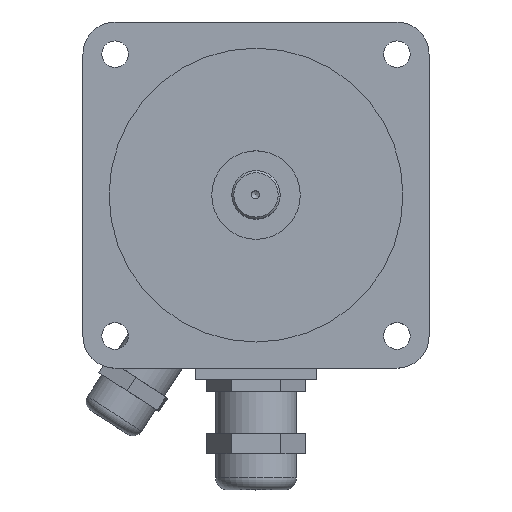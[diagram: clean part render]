
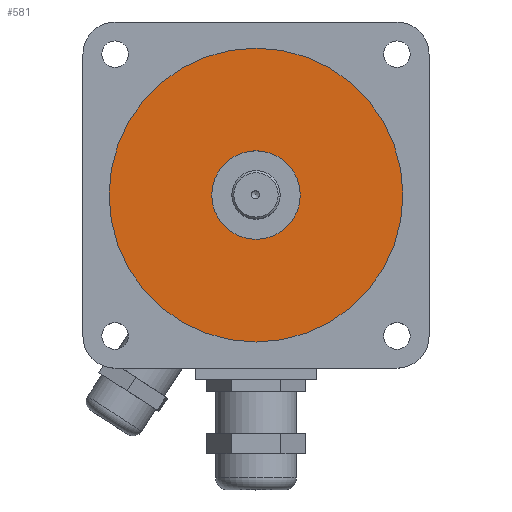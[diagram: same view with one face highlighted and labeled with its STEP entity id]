
A CAD part, top view. The second image highlights one B-rep face of the part: STEP entity #581.
In plain terms, the highlighted planar face has unit normal (0, 0, 1).
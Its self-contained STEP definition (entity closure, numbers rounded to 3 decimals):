
#554=CARTESIAN_POINT('',(-69.773,-89.811,85.505));
#555=DIRECTION('',(0.0,0.0,-1.0));
#556=DIRECTION('',(1.0,0.0,0.0));
#557=AXIS2_PLACEMENT_3D('',#554,#555,#556);
#558=PLANE('',#557);
#559=CARTESIAN_POINT('',(-106.273,-89.811,85.505));
#560=VERTEX_POINT('',#559);
#561=CARTESIAN_POINT('',(-69.773,-89.811,85.505));
#562=DIRECTION('',(0.0,0.0,-1.0));
#563=DIRECTION('',(1.0,0.0,0.0));
#564=AXIS2_PLACEMENT_3D('',#561,#562,#563);
#565=CIRCLE('',#564,36.5);
#566=EDGE_CURVE('',#560,#560,#565,.T.);
#567=ORIENTED_EDGE('',*,*,#566,.F.);
#568=EDGE_LOOP('',(#567));
#569=FACE_OUTER_BOUND('',#568,.T.);
#570=CARTESIAN_POINT('',(-80.773,-89.811,85.505));
#571=VERTEX_POINT('',#570);
#572=CARTESIAN_POINT('',(-69.773,-89.811,85.505));
#573=DIRECTION('',(0.0,0.0,-1.0));
#574=DIRECTION('',(1.0,0.0,0.0));
#575=AXIS2_PLACEMENT_3D('',#572,#573,#574);
#576=CIRCLE('',#575,11.0);
#577=EDGE_CURVE('',#571,#571,#576,.T.);
#578=ORIENTED_EDGE('',*,*,#577,.T.);
#579=EDGE_LOOP('',(#578));
#580=FACE_BOUND('',#579,.T.);
#581=ADVANCED_FACE('',(#569,#580),#558,.F.);
